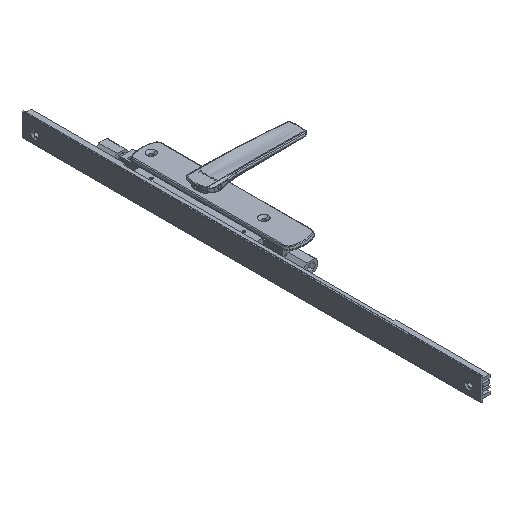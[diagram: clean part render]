
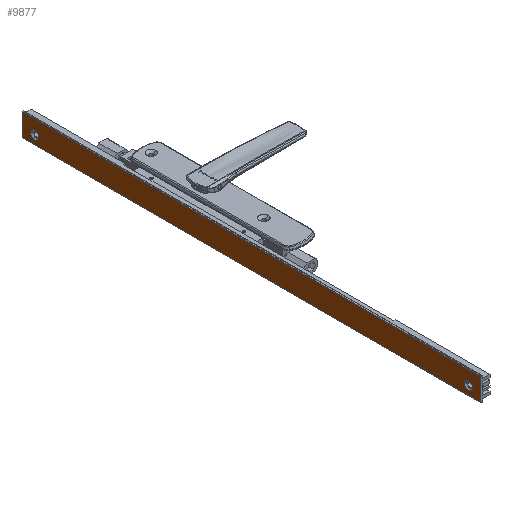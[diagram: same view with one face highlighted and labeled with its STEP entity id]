
A CAD part, isometric view. The second image highlights one B-rep face of the part: STEP entity #9877.
In plain terms, the highlighted planar face has unit normal (-1, 0, 0) as drawn and (0, 1, 0) by its records, which use the part's own axes.
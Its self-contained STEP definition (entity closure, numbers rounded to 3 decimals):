
#613 = VECTOR ( 'NONE', #3193, 1000. ) ;
#648 = CIRCLE ( 'NONE', #12092, 4.89 ) ;
#803 = AXIS2_PLACEMENT_3D ( 'NONE', #23267, #1960, #22974 ) ;
#998 = VERTEX_POINT ( 'NONE', #21953 ) ;
#1173 = CARTESIAN_POINT ( 'NONE',  ( -4.4, 12.4, 0. ) ) ;
#1437 = ORIENTED_EDGE ( 'NONE', *, *, #30094, .F. ) ;
#1960 = DIRECTION ( 'NONE',  ( 0., 1., 0. ) ) ;
#1993 = FACE_BOUND ( 'NONE', #10955, .T. ) ;
#2038 = EDGE_CURVE ( 'NONE', #17232, #19211, #648, .T. ) ;
#2861 = DIRECTION ( 'NONE',  ( 0., 1., 0. ) ) ;
#2983 = CARTESIAN_POINT ( 'NONE',  ( 22., 12.4, 0. ) ) ;
#3193 = DIRECTION ( 'NONE',  ( 0., 0., 1. ) ) ;
#3394 = EDGE_CURVE ( 'NONE', #27628, #18218, #28080, .T. ) ;
#3482 = ORIENTED_EDGE ( 'NONE', *, *, #19710, .F. ) ;
#3724 = ORIENTED_EDGE ( 'NONE', *, *, #11179, .F. ) ;
#4042 = FACE_BOUND ( 'NONE', #25342, .T. ) ;
#4951 = DIRECTION ( 'NONE',  ( 0., 0., 1. ) ) ;
#5341 = EDGE_CURVE ( 'NONE', #19672, #25973, #8033, .T. ) ;
#5419 = DIRECTION ( 'NONE',  ( 0., 1., 0. ) ) ;
#5792 = CARTESIAN_POINT ( 'NONE',  ( 20.8, 12.4, 544. ) ) ;
#5960 = DIRECTION ( 'NONE',  ( -1., 0., 0. ) ) ;
#6216 = EDGE_LOOP ( 'NONE', ( #9478, #16138, #1437, #3482 ) ) ;
#6561 = CARTESIAN_POINT ( 'NONE',  ( 20.8, 12.4, 544. ) ) ;
#7086 = CARTESIAN_POINT ( 'NONE',  ( 22., 12.4, 544. ) ) ;
#7123 = CARTESIAN_POINT ( 'NONE',  ( 11.8, 12.4, 19.89 ) ) ;
#7519 = AXIS2_PLACEMENT_3D ( 'NONE', #6561, #18134, #25513 ) ;
#8033 = CIRCLE ( 'NONE', #24587, 4.889 ) ;
#8445 = CARTESIAN_POINT ( 'NONE',  ( 11.8, 12.4, 529. ) ) ;
#9226 = CARTESIAN_POINT ( 'NONE',  ( 20.8, 12.4, 0. ) ) ;
#9278 = DIRECTION ( 'NONE',  ( 0., 1., 0. ) ) ;
#9478 = ORIENTED_EDGE ( 'NONE', *, *, #3394, .T. ) ;
#9877 = ADVANCED_FACE ( 'NONE', ( #1993, #4042, #15906 ), #18439, .F. ) ;
#10226 = LINE ( 'NONE', #1173, #613 ) ;
#10302 = CIRCLE ( 'NONE', #803, 4.89 ) ;
#10486 = CARTESIAN_POINT ( 'NONE',  ( 22., 12.4, 0. ) ) ;
#10955 = EDGE_LOOP ( 'NONE', ( #27694, #21202 ) ) ;
#11179 = EDGE_CURVE ( 'NONE', #25973, #19672, #17291, .T. ) ;
#11303 = CARTESIAN_POINT ( 'NONE',  ( 11.8, 12.4, 529. ) ) ;
#12092 = AXIS2_PLACEMENT_3D ( 'NONE', #14626, #5419, #4951 ) ;
#12372 = DIRECTION ( 'NONE',  ( 0., 0., 1. ) ) ;
#14626 = CARTESIAN_POINT ( 'NONE',  ( 11.8, 12.4, 15. ) ) ;
#15006 = DIRECTION ( 'NONE',  ( 0., 0., 1. ) ) ;
#15906 = FACE_OUTER_BOUND ( 'NONE', #6216, .T. ) ;
#16096 = DIRECTION ( 'NONE',  ( -1., 0., 0. ) ) ;
#16138 = ORIENTED_EDGE ( 'NONE', *, *, #16871, .T. ) ;
#16618 = DIRECTION ( 'NONE',  ( 0., 0., 1. ) ) ;
#16786 = CARTESIAN_POINT ( 'NONE',  ( 11.8, 12.4, 10.111 ) ) ;
#16871 = EDGE_CURVE ( 'NONE', #18218, #998, #10226, .T. ) ;
#17099 = VECTOR ( 'NONE', #15006, 1000. ) ;
#17232 = VERTEX_POINT ( 'NONE', #16786 ) ;
#17291 = CIRCLE ( 'NONE', #21315, 4.889 ) ;
#17707 = ORIENTED_EDGE ( 'NONE', *, *, #5341, .F. ) ;
#18134 = DIRECTION ( 'NONE',  ( 0., -1., 0. ) ) ;
#18218 = VERTEX_POINT ( 'NONE', #18696 ) ;
#18439 = PLANE ( 'NONE',  #7519 ) ;
#18696 = CARTESIAN_POINT ( 'NONE',  ( -4.4, 12.4, 0. ) ) ;
#19211 = VERTEX_POINT ( 'NONE', #7123 ) ;
#19672 = VERTEX_POINT ( 'NONE', #29041 ) ;
#19710 = EDGE_CURVE ( 'NONE', #27628, #22553, #26999, .T. ) ;
#21202 = ORIENTED_EDGE ( 'NONE', *, *, #2038, .F. ) ;
#21315 = AXIS2_PLACEMENT_3D ( 'NONE', #8445, #2861, #12372 ) ;
#21953 = CARTESIAN_POINT ( 'NONE',  ( -4.4, 12.4, 544. ) ) ;
#22553 = VERTEX_POINT ( 'NONE', #7086 ) ;
#22974 = DIRECTION ( 'NONE',  ( 0., 0., 1. ) ) ;
#23267 = CARTESIAN_POINT ( 'NONE',  ( 11.8, 12.4, 15. ) ) ;
#24587 = AXIS2_PLACEMENT_3D ( 'NONE', #11303, #9278, #16618 ) ;
#25342 = EDGE_LOOP ( 'NONE', ( #3724, #17707 ) ) ;
#25513 = DIRECTION ( 'NONE',  ( 1., 0., 0. ) ) ;
#25973 = VERTEX_POINT ( 'NONE', #27610 ) ;
#26458 = VECTOR ( 'NONE', #16096, 1000. ) ;
#26999 = LINE ( 'NONE', #10486, #17099 ) ;
#27301 = LINE ( 'NONE', #5792, #30399 ) ;
#27610 = CARTESIAN_POINT ( 'NONE',  ( 11.8, 12.4, 533.889 ) ) ;
#27628 = VERTEX_POINT ( 'NONE', #2983 ) ;
#27694 = ORIENTED_EDGE ( 'NONE', *, *, #30208, .F. ) ;
#28080 = LINE ( 'NONE', #9226, #26458 ) ;
#29041 = CARTESIAN_POINT ( 'NONE',  ( 11.8, 12.4, 524.111 ) ) ;
#30094 = EDGE_CURVE ( 'NONE', #22553, #998, #27301, .T. ) ;
#30208 = EDGE_CURVE ( 'NONE', #19211, #17232, #10302, .T. ) ;
#30399 = VECTOR ( 'NONE', #5960, 1000. ) ;
